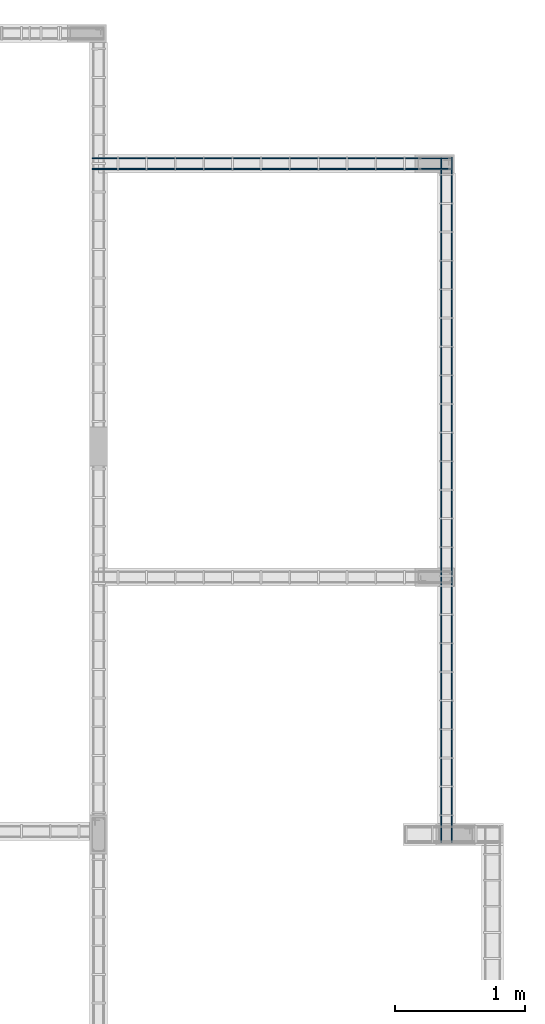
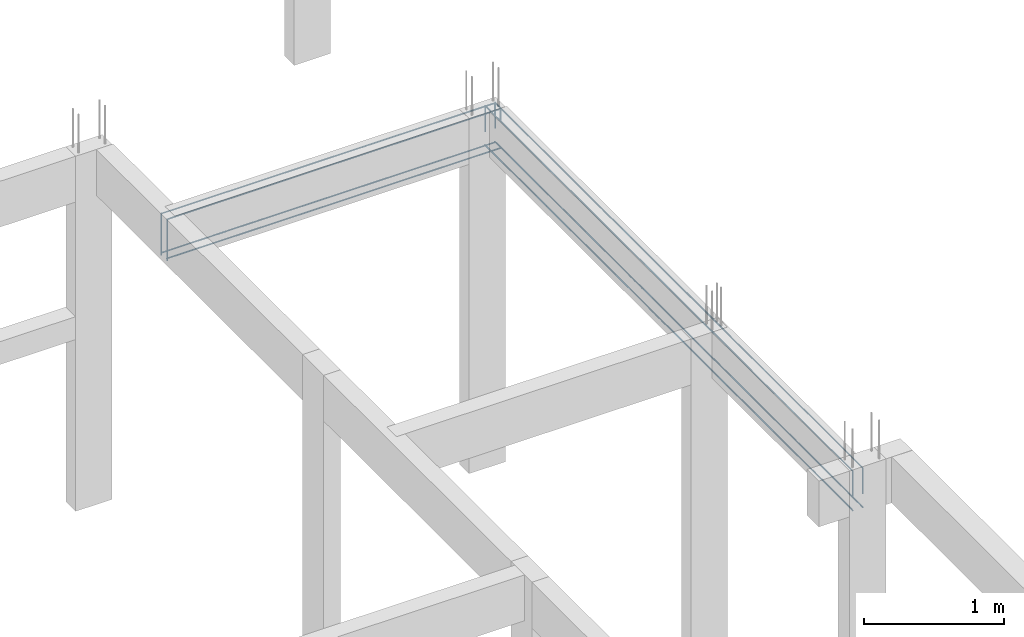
# One storey, part 130 of 236: 8 reinforcing bars.
"""IFC4 building model written with IfcOpenShell, lengths in centimetres."""

from ifc_helpers import new_model, entity, si_unit, derived_unit, frame, origin_with_axes, place, context, project, spatial, element, save


model = new_model("IFC4")

# Units and contexts
model_context = context("Model", 3, precision=1e-05, world=origin_with_axes(), identifier="Body")
ifc_project = project(units=[si_unit("LENGTHUNIT", "METRE", prefix="CENTI"), si_unit("VOLUMEUNIT", "CUBIC_METRE"), si_unit("AREAUNIT", "SQUARE_METRE"), si_unit("POWERUNIT", "WATT"), si_unit("LUMINOUSFLUXUNIT", "LUMEN"), si_unit("ELECTRICCURRENTUNIT", "AMPERE"), si_unit("PRESSUREUNIT", "PASCAL", prefix="KILO"), si_unit("MASSUNIT", "GRAM", prefix="KILO"), si_unit("PLANEANGLEUNIT", "RADIAN"), derived_unit("VOLUMETRICFLOWRATEUNIT", [(si_unit("LENGTHUNIT", "METRE"), 3), (si_unit("TIMEUNIT", "SECOND"), -1)])], contexts=[model_context])

# Site, building, storey
site_placement = place(None, frame((-4000.0, 0.0, 0.0), z_axis=(0.0, 0.0, 1.0), x_axis=(1.0, 0.0, 0.0)))
site = spatial("IfcSite", under=ifc_project, at=site_placement, Name="PADRÃO")
building_placement = place(site_placement, frame((0.0, 0.0, -14.0)))
building = spatial("IfcBuilding", under=site, at=building_placement, Name="CRECHE PRÉ-ESCOLA TIPO 2")
placement_1 = place(building_placement, origin_with_axes())
placement_2 = place(placement_1, frame((0.0, 0.0, 30.0), z_axis=(0.0, 0.0, 1.0), x_axis=(1.0, 0.0, 0.0)))
storey_placement = place(placement_2, frame((0.0, 0.0, 310.0), z_axis=(0.0, 0.0, 1.0), x_axis=(1.0, 0.0, 0.0)))
storey = spatial("IfcBuildingStorey", under=building, at=storey_placement, Name="TERREO", CompositionType="ELEMENT", Elevation=326.0)

# Reinforcing bars
for number, where, z_axis, x_axis, name in (
    (1, (1251.78, 3989.1, -36.7), (0.0, 0.0, 1.0), (1.0, 0.0, 0.0), "V204 - Longitudinal inferior"),
    (2, (1251.78, 3980.9, -36.7), (0.0, 0.0, 1.0), (1.0, 0.0, 0.0), "V204 - Longitudinal inferior"),
):
    element("IfcReinforcingBar", number, at=place(storey_placement, frame(where, z_axis=z_axis, x_axis=x_axis)), inside=storey, Name=name, BarLength=0.0, CrossSectionArea=5.0265482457e-05, NominalDiameter=0.8, PredefinedType="MAIN", context=model_context, shape_type="AdvancedSweptSolid", body=[
        entity("IfcSweptDiskSolid", entity("IfcCompositeCurve", [entity("IfcCompositeCurveSegment", "CONTINUOUS", True, entity("IfcPolyline", [entity("IfcCartesianPoint", [-138.06, 0.0, -0.4]), entity("IfcCartesianPoint", [138.06, 0.0, -0.4])]))], False), 0.4),
    ])
for number, where, z_axis, x_axis, name in (
    (3, (1251.78, 3989.1, -2.49624973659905), (0.0, 0.0, 1.0), (1.0, 0.0, 0.0), "V204 - Longitudinal superior"),
    (4, (1251.78, 3980.9, -2.49624973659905), (0.0, 0.0, 1.0), (1.0, 0.0, 0.0), "V204 - Longitudinal superior"),
):
    element("IfcReinforcingBar", number, at=place(storey_placement, frame(where, z_axis=z_axis, x_axis=x_axis)), inside=storey, Name=name, BarLength=0.0, CrossSectionArea=5.0265482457e-05, NominalDiameter=0.8, PredefinedType="MAIN", context=model_context, shape_type="AdvancedSweptSolid", body=[
        entity("IfcSweptDiskSolid", entity("IfcCompositeCurve", [entity("IfcCompositeCurveSegment", "CONTINUOUS", True, entity("IfcPolyline", [entity("IfcCartesianPoint", [-137.66, 0.0, -36.4037502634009]), entity("IfcCartesianPoint", [-137.66, 0.0, -0.403750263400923])])), entity("IfcCompositeCurveSegment", "CONTINUOUS", True, entity("IfcPolyline", [entity("IfcCartesianPoint", [-137.66, 0.0, -0.403750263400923]), entity("IfcCartesianPoint", [137.66, 0.0, -0.403750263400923])])), entity("IfcCompositeCurveSegment", "CONTINUOUS", True, entity("IfcPolyline", [entity("IfcCartesianPoint", [137.66, 0.0, -0.403750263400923]), entity("IfcCartesianPoint", [137.66, 0.0, -10.4037502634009])]))], False), 0.4),
    ])
for number, where, z_axis, x_axis, name in (
    (5, (1389.95, 3726.76, -36.7), (0.0, 0.0, 1.0), (1.0, 0.0, 0.0), "V286 - Longitudinal inferior"),
    (6, (1381.75, 3726.76, -36.7), (0.0, 0.0, 1.0), (1.0, 0.0, 0.0), "V286 - Longitudinal inferior"),
):
    element("IfcReinforcingBar", number, at=place(storey_placement, frame(where, z_axis=z_axis, x_axis=x_axis)), inside=storey, Name=name, BarLength=0.0, CrossSectionArea=5.0265482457e-05, NominalDiameter=0.8, PredefinedType="MAIN", context=model_context, shape_type="AdvancedSweptSolid", body=[
        entity("IfcSweptDiskSolid", entity("IfcCompositeCurve", [entity("IfcCompositeCurveSegment", "CONTINUOUS", True, entity("IfcPolyline", [entity("IfcCartesianPoint", [0.0, -263.24, -0.4]), entity("IfcCartesianPoint", [0.0, 263.24, -0.4])]))], False), 0.4),
    ])
for number, where, z_axis, x_axis, name in (
    (7, (1389.95, 3726.76, -2.49624973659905), (0.0, 0.0, 1.0), (1.0, 0.0, 0.0), "V286 - Longitudinal superior"),
    (8, (1381.75, 3726.76, -2.49624973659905), (0.0, 0.0, 1.0), (1.0, 0.0, 0.0), "V286 - Longitudinal superior"),
):
    element("IfcReinforcingBar", number, at=place(storey_placement, frame(where, z_axis=z_axis, x_axis=x_axis)), inside=storey, Name=name, BarLength=0.0, CrossSectionArea=5.0265482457e-05, NominalDiameter=0.8, PredefinedType="MAIN", context=model_context, shape_type="AdvancedSweptSolid", body=[
        entity("IfcSweptDiskSolid", entity("IfcCompositeCurve", [entity("IfcCompositeCurveSegment", "CONTINUOUS", True, entity("IfcPolyline", [entity("IfcCartesianPoint", [0.0, -262.84, -22.7014629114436]), entity("IfcCartesianPoint", [0.0, -262.84, -0.403750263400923])])), entity("IfcCompositeCurveSegment", "CONTINUOUS", True, entity("IfcPolyline", [entity("IfcCartesianPoint", [0.0, -262.84, -0.403750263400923]), entity("IfcCartesianPoint", [0.0, 262.84, -0.403750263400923])])), entity("IfcCompositeCurveSegment", "CONTINUOUS", True, entity("IfcPolyline", [entity("IfcCartesianPoint", [0.0, 262.84, -0.403750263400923]), entity("IfcCartesianPoint", [0.0, 262.84, -22.7014629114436])]))], False), 0.4),
    ])

save(model, "model.ifc")
